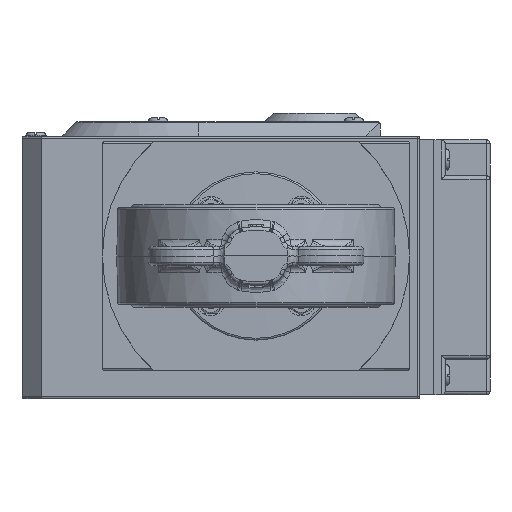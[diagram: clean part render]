
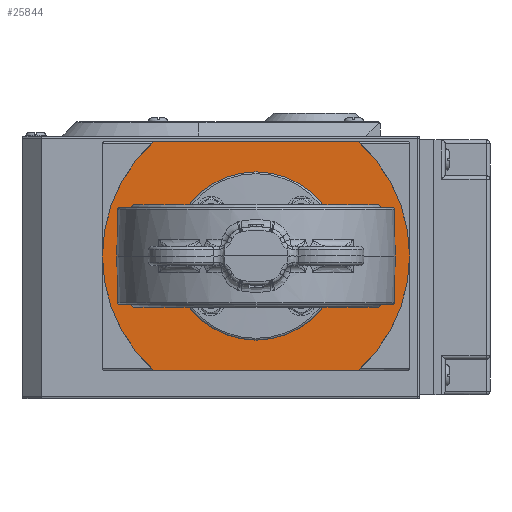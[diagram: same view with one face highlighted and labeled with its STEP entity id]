
A CAD part, front view. The second image highlights one B-rep face of the part: STEP entity #25844.
In plain terms, the highlighted planar face has unit normal (0, -1, 0).
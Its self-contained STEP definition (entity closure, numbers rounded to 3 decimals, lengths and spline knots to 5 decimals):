
#1786=PLANE('',#28788);
#3190=LINE('',#74027,#4533);
#3204=LINE('',#74059,#4547);
#4533=VECTOR('',#33656,0.11143);
#4547=VECTOR('',#33680,0.11143);
#6116=CIRCLE('',#28153,0.084);
#6371=CIRCLE('',#28787,0.084);
#6372=CIRCLE('',#28789,0.001);
#6373=CIRCLE('',#28790,0.001);
#6374=CIRCLE('',#28791,0.001);
#6375=CIRCLE('',#28792,0.001);
#8050=FACE_OUTER_BOUND('',#9662,.T.);
#9662=EDGE_LOOP('',(#24166,#24167,#24168,#24169,#24170,#24171,#24172,#24173));
#12293=VERTEX_POINT('',#74024);
#12294=VERTEX_POINT('',#74026);
#12306=VERTEX_POINT('',#74056);
#12307=VERTEX_POINT('',#74058);
#12311=VERTEX_POINT('',#74071);
#12312=VERTEX_POINT('',#74072);
#12869=VERTEX_POINT('',#77713);
#12870=VERTEX_POINT('',#77714);
#15730=EDGE_CURVE('',#12294,#12293,#3190,.T.);
#15746=EDGE_CURVE('',#12307,#12306,#3204,.T.);
#15753=EDGE_CURVE('',#12311,#12312,#6116,.T.);
#16639=EDGE_CURVE('',#12869,#12870,#6371,.T.);
#16644=EDGE_CURVE('',#12306,#12869,#6372,.F.);
#16645=EDGE_CURVE('',#12870,#12294,#6373,.F.);
#16646=EDGE_CURVE('',#12293,#12311,#6374,.F.);
#16647=EDGE_CURVE('',#12312,#12307,#6375,.F.);
#24166=ORIENTED_EDGE('',*,*,#15746,.T.);
#24167=ORIENTED_EDGE('',*,*,#16644,.T.);
#24168=ORIENTED_EDGE('',*,*,#16639,.T.);
#24169=ORIENTED_EDGE('',*,*,#16645,.T.);
#24170=ORIENTED_EDGE('',*,*,#15730,.T.);
#24171=ORIENTED_EDGE('',*,*,#16646,.T.);
#24172=ORIENTED_EDGE('',*,*,#15753,.T.);
#24173=ORIENTED_EDGE('',*,*,#16647,.T.);
#25844=ADVANCED_FACE('',(#8050),#1786,.F.);
#28153=AXIS2_PLACEMENT_3D('',#74073,#33693,#33694);
#28787=AXIS2_PLACEMENT_3D('',#77715,#35443,#35444);
#28788=AXIS2_PLACEMENT_3D('',#77732,#35447,#35448);
#28789=AXIS2_PLACEMENT_3D('',#77733,#35449,#35450);
#28790=AXIS2_PLACEMENT_3D('',#77734,#35451,#35452);
#28791=AXIS2_PLACEMENT_3D('',#77735,#35453,#35454);
#28792=AXIS2_PLACEMENT_3D('',#77736,#35455,#35456);
#33656=DIRECTION('',(1.,0.,0.));
#33680=DIRECTION('',(-1.,0.,0.));
#33693=DIRECTION('center_axis',(0.,-1.,0.));
#33694=DIRECTION('ref_axis',(1.,0.,0.));
#35443=DIRECTION('center_axis',(0.,-1.,0.));
#35444=DIRECTION('ref_axis',(1.,0.,0.));
#35447=DIRECTION('center_axis',(0.,1.,0.));
#35448=DIRECTION('ref_axis',(0.,0.,1.));
#35449=DIRECTION('center_axis',(0.,1.,0.));
#35450=DIRECTION('ref_axis',(-1.,0.,0.));
#35451=DIRECTION('center_axis',(0.,1.,0.));
#35452=DIRECTION('ref_axis',(-1.,0.,0.));
#35453=DIRECTION('center_axis',(0.,1.,0.));
#35454=DIRECTION('ref_axis',(-1.,0.,0.));
#35455=DIRECTION('center_axis',(0.,1.,0.));
#35456=DIRECTION('ref_axis',(-1.,0.,0.));
#74024=CARTESIAN_POINT('',(0.05572,-0.10875,-0.06252));
#74026=CARTESIAN_POINT('',(-0.05572,-0.10875,-0.06252));
#74027=CARTESIAN_POINT('',(-0.05572,-0.10875,-0.06252));
#74056=CARTESIAN_POINT('',(-0.05572,-0.10875,0.06252));
#74058=CARTESIAN_POINT('',(0.05572,-0.10875,0.06252));
#74059=CARTESIAN_POINT('',(0.05572,-0.10875,0.06252));
#74071=CARTESIAN_POINT('',(0.05639,-0.10875,-0.06226));
#74072=CARTESIAN_POINT('',(0.05639,-0.10875,0.06226));
#74073=CARTESIAN_POINT('Origin',(0.,-0.10875,0.));
#77713=CARTESIAN_POINT('',(-0.05639,-0.10875,0.06226));
#77714=CARTESIAN_POINT('',(-0.05639,-0.10875,-0.06226));
#77715=CARTESIAN_POINT('Origin',(0.,-0.10875,0.));
#77732=CARTESIAN_POINT('Origin',(0.,-0.10875,0.));
#77733=CARTESIAN_POINT('Origin',(-0.05572,-0.10875,0.06152));
#77734=CARTESIAN_POINT('Origin',(-0.05572,-0.10875,-0.06152));
#77735=CARTESIAN_POINT('Origin',(0.05572,-0.10875,-0.06152));
#77736=CARTESIAN_POINT('Origin',(0.05572,-0.10875,0.06152));
